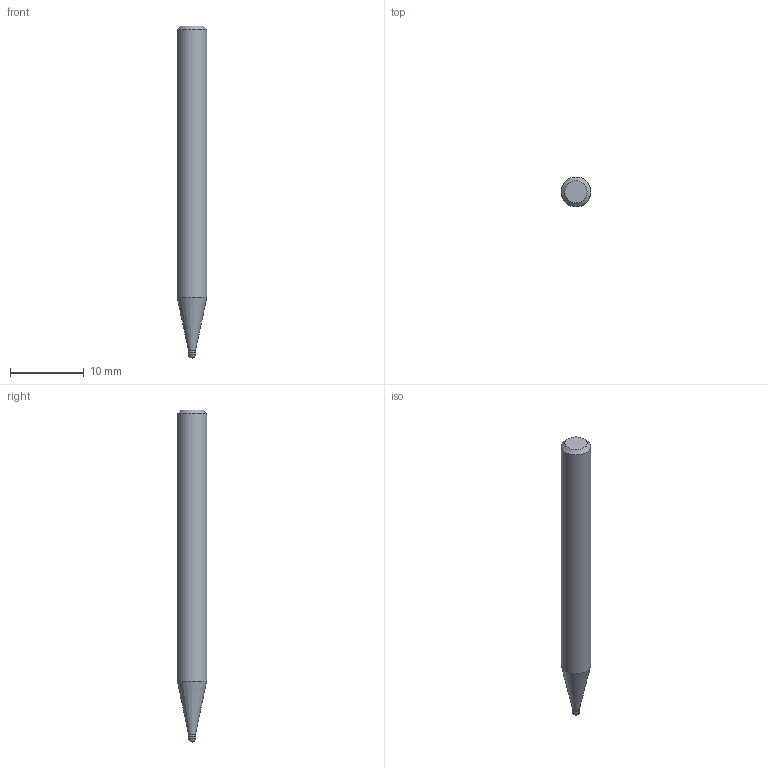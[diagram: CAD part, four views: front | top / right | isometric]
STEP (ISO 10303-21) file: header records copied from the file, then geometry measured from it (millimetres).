
FILE_DESCRIPTION((''),'2;1');
FILE_NAME('C:\Users\nsx150\AppData\Local\Temp\Mastercam 2021\ARV7HD45SN\TEMP.step','2023-06-13T16:35:13',(''),(''),'STEP Write','Mastercam 2021 ... CNC Software, Inc.','');
FILE_SCHEMA(('AUTOMOTIVE_DESIGN'));
Length unit declared in the file: millimetre
Products named in the file (1): None
Bounding box: 4 x 4 x 45 mm (x, y, z)
Volume: 500.8 mm3; surface area: 533 mm2
Topology: 2 solids, 2 shells, 9 faces, 14 edges, 8 vertices
Faces by surface type: plane 3, cylinder 3, cone 2, sphere 1
Full cylindrical faces by diameter (mm): 0.95 x1, 1 x1, 4 x1
Entity records: 211 total; most frequent: DIRECTION 36, CARTESIAN_POINT 25, AXIS2_PLACEMENT_3D 18, ORIENTED_EDGE 14, EDGE_LOOP 14, STYLED_ITEM 12, ADVANCED_FACE 9, FACE_BOUND 8
